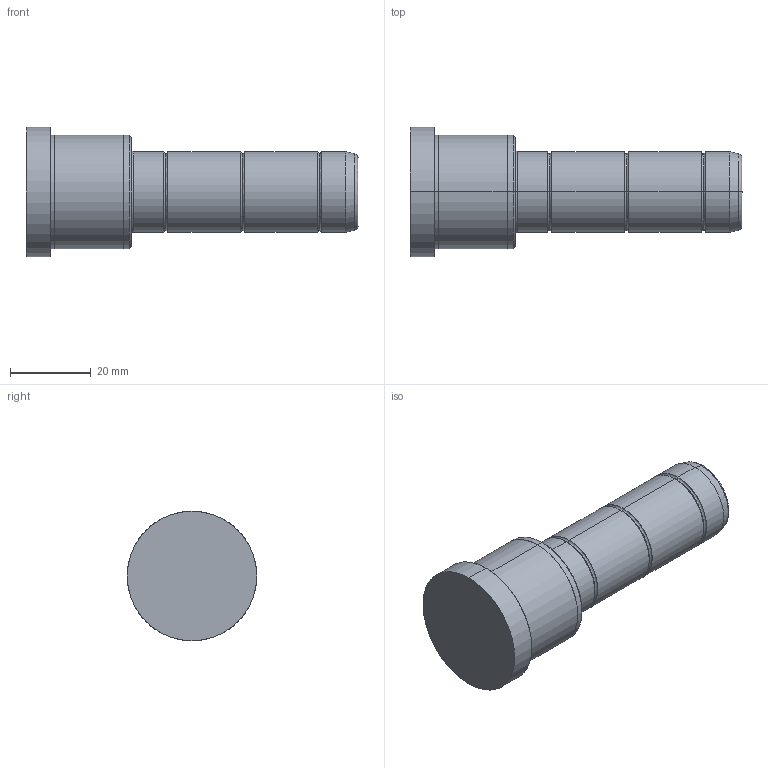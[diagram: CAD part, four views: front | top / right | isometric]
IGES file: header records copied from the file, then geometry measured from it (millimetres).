
Start section: SolidWorks IGES file using analytic representation for surfaces
Global section: file name: C:\Documents and Settings\kalite-mail\Desktop\IGS\D02\20\D02 - 20x26x56.IGS; native system: SolidWorks 2008; preprocessor: SolidWorks 2008; author: kalite-mail; date: 080616.161327; units: millimetre
Bounding box: 82 x 32 x 32 mm (x, y, z)
Surface area: 7488.1 mm2 (no closed solid volume)
Topology: 0 solids, 0 shells, 42 faces, 688 edges, 688 vertices
Faces by surface type: bspline 22, revolution 20
